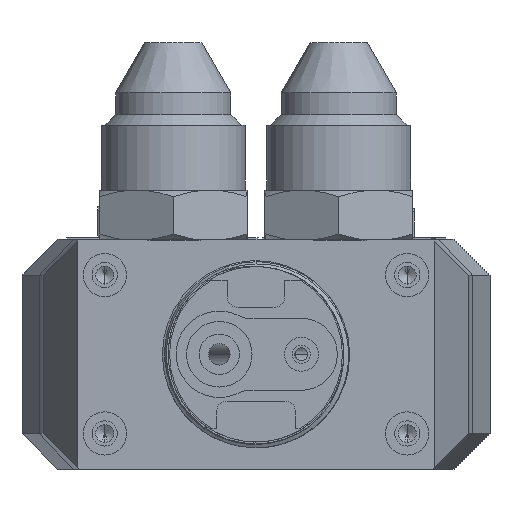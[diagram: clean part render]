
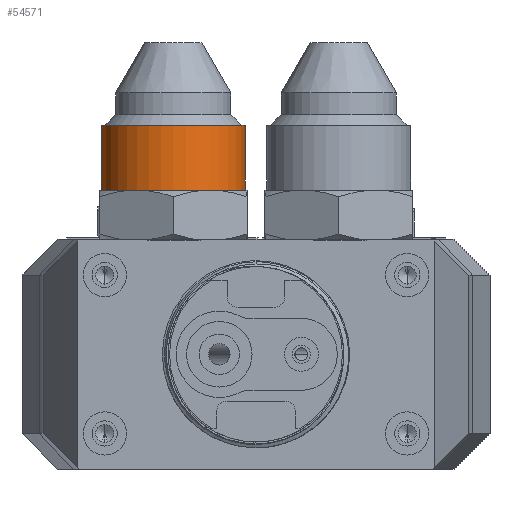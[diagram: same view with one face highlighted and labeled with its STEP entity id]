
A CAD part, front view. The second image highlights one B-rep face of the part: STEP entity #54571.
In plain terms, the highlighted cylindrical face has radius 10 mm (diameter 20 mm), a partial arc.
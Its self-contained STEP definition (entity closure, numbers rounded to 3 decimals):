
#70 = EDGE_CURVE ( 'NONE', #38997, #65232, #33175, .T. ) ;
#1146 = VERTEX_POINT ( 'NONE', #22774 ) ;
#4310 = AXIS2_PLACEMENT_3D ( 'NONE', #34926, #51135, #65669 ) ;
#5772 = LINE ( 'NONE', #10856, #20349 ) ;
#7359 = CIRCLE ( 'NONE', #27927, 10. ) ;
#10856 = CARTESIAN_POINT ( 'NONE',  ( -48.998, -154.021, 1052.575 ) ) ;
#12540 = DIRECTION ( 'NONE',  ( 0., 0., 1. ) ) ;
#16569 = EDGE_CURVE ( 'NONE', #23637, #1146, #7359, .T. ) ;
#16749 = ORIENTED_EDGE ( 'NONE', *, *, #17868, .F. ) ;
#17868 = EDGE_CURVE ( 'NONE', #38997, #1146, #59550, .T. ) ;
#19673 = DIRECTION ( 'NONE',  ( 0., 0., 1. ) ) ;
#20349 = VECTOR ( 'NONE', #21324, 1000. ) ;
#21324 = DIRECTION ( 'NONE',  ( 0., 0., 1. ) ) ;
#22774 = CARTESIAN_POINT ( 'NONE',  ( -68.998, -154.021, 1030.303 ) ) ;
#23637 = VERTEX_POINT ( 'NONE', #49354 ) ;
#24275 = CARTESIAN_POINT ( 'NONE',  ( -58.998, -154.021, 1030.303 ) ) ;
#25571 = EDGE_LOOP ( 'NONE', ( #16749, #55589, #49212, #62309 ) ) ;
#27927 = AXIS2_PLACEMENT_3D ( 'NONE', #24275, #30042, #30377 ) ;
#29267 = EDGE_CURVE ( 'NONE', #65232, #23637, #5772, .T. ) ;
#30042 = DIRECTION ( 'NONE',  ( 0., 0., -1. ) ) ;
#30377 = DIRECTION ( 'NONE',  ( 1., 0., 0. ) ) ;
#31123 = CARTESIAN_POINT ( 'NONE',  ( -48.998, -154.021, 1021.303 ) ) ;
#33175 = CIRCLE ( 'NONE', #56885, 10. ) ;
#34915 = CARTESIAN_POINT ( 'NONE',  ( -58.998, -154.021, 1021.303 ) ) ;
#34926 = CARTESIAN_POINT ( 'NONE',  ( -58.998, -154.021, 1052.575 ) ) ;
#38997 = VERTEX_POINT ( 'NONE', #47099 ) ;
#39877 = VECTOR ( 'NONE', #12540, 1000. ) ;
#47099 = CARTESIAN_POINT ( 'NONE',  ( -68.998, -154.021, 1021.303 ) ) ;
#49212 = ORIENTED_EDGE ( 'NONE', *, *, #29267, .T. ) ;
#49354 = CARTESIAN_POINT ( 'NONE',  ( -48.998, -154.021, 1030.303 ) ) ;
#49420 = CARTESIAN_POINT ( 'NONE',  ( -68.998, -154.021, 1052.575 ) ) ;
#50470 = FACE_OUTER_BOUND ( 'NONE', #25571, .T. ) ;
#50807 = CYLINDRICAL_SURFACE ( 'NONE', #4310, 10. ) ;
#51135 = DIRECTION ( 'NONE',  ( 0., 0., 1. ) ) ;
#54571 = ADVANCED_FACE ( 'NONE', ( #50470 ), #50807, .T. ) ;
#55589 = ORIENTED_EDGE ( 'NONE', *, *, #70, .T. ) ;
#56885 = AXIS2_PLACEMENT_3D ( 'NONE', #34915, #19673, #62494 ) ;
#59550 = LINE ( 'NONE', #49420, #39877 ) ;
#62309 = ORIENTED_EDGE ( 'NONE', *, *, #16569, .T. ) ;
#62494 = DIRECTION ( 'NONE',  ( 1., 0., 0. ) ) ;
#65232 = VERTEX_POINT ( 'NONE', #31123 ) ;
#65669 = DIRECTION ( 'NONE',  ( 1., 0., 0. ) ) ;
